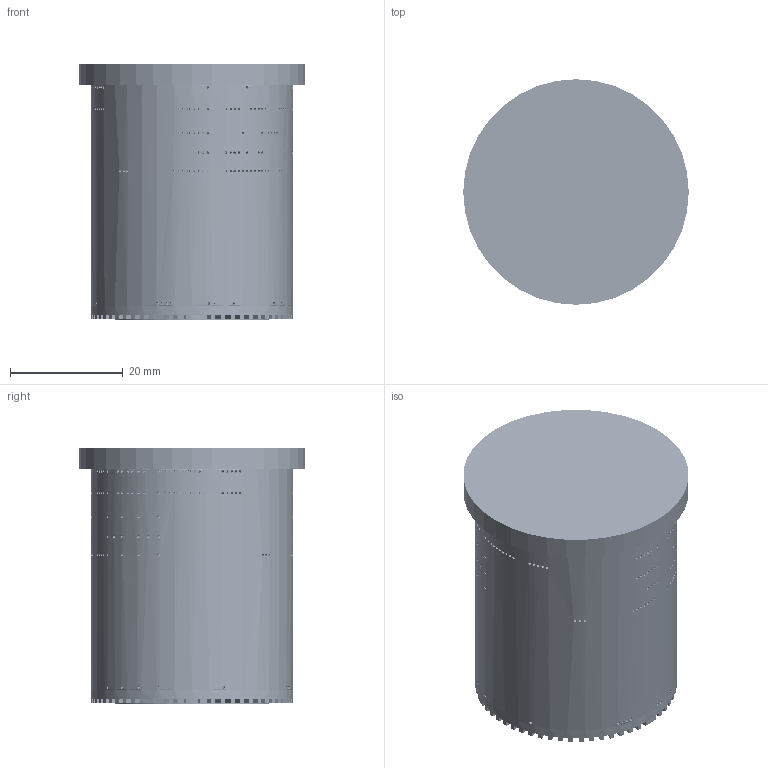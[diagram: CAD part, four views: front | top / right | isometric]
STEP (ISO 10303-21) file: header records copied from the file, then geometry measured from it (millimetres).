
FILE_DESCRIPTION(('Open CASCADE Model'),'2;1');
FILE_NAME('Open CASCADE Shape Model','2026-11-24T10:07:54',('Author'),( 'Open CASCADE'),'Open CASCADE STEP processor 7.8','Open CASCADE 7.8' ,'Unknown');
FILE_SCHEMA(('AUTOMOTIVE_DESIGN { 1 0 10303 214 1 1 1 1 }'));
Length unit declared in the file: millimetre
Products named in the file (17): 85409f56-e7e6-11f1-85fd-3ea5e9b9197e; aft_end_board; battery_holder; battery_floor_plate; activation_interface; spacer_activation_interface_wakeup_board; wakeup_board; spacer_wakeup_board_power_board; power_board; spacer_power_board_companion_compute; companion_compute; spacer_companion_compute_radar_module; radar_module; core_sleeve; nose_cap; aop_dam; aft_end_cap
Assembly tree (16 placements, depth 2):
  85409f56-e7e6-11f1-85fd-3ea5e9b9197e
    aft_end_board
    battery_holder
    battery_floor_plate
    activation_interface
    spacer_activation_interface_wakeup_board
    wakeup_board
    spacer_wakeup_board_power_board
    power_board
    spacer_power_board_companion_compute
    companion_compute
    spacer_companion_compute_radar_module
    radar_module
    core_sleeve
    nose_cap
    aop_dam
    aft_end_cap
Bounding box: 40 x 40 x 45.58 mm (x, y, z)
Volume: 31859.2 mm3; surface area: 47266.2 mm2
Topology: 2035 solids, 2035 shells, 26906 faces, 67918 edges, 44866 vertices
Faces by surface type: plane 18171, cylinder 7743, sphere 656, bspline 288, extrusion 32, cone 8, torus 8
Full cylindrical faces by diameter (mm): 0.1 x1, 0.125 x1, 0.188 x2, 0.25 x3, 0.3 x9, 0.375 x1, 0.5 x266, 0.55 x180, 0.625 x4, 0.8 x3, 0.812 x1, 1 x4, 1.2 x6, 1.25 x1, 1.55 x3, 1.6 x3, 1.8 x22, 2.2 x15, 3 x6, 3.5 x3, 27.2 x2, 27.8 x1, 34.2 x1, 35.8 x2, 37.88 x1, 38 x1, 40 x1
Entity records: 1756070 total; most frequent: CARTESIAN_POINT 410983, DIRECTION 254517, VECTOR 163023, LINE 162991, ORIENTED_EDGE 132158, PCURVE 132156, DEFINITIONAL_REPRESENTATION 132156, EDGE_CURVE 66078
